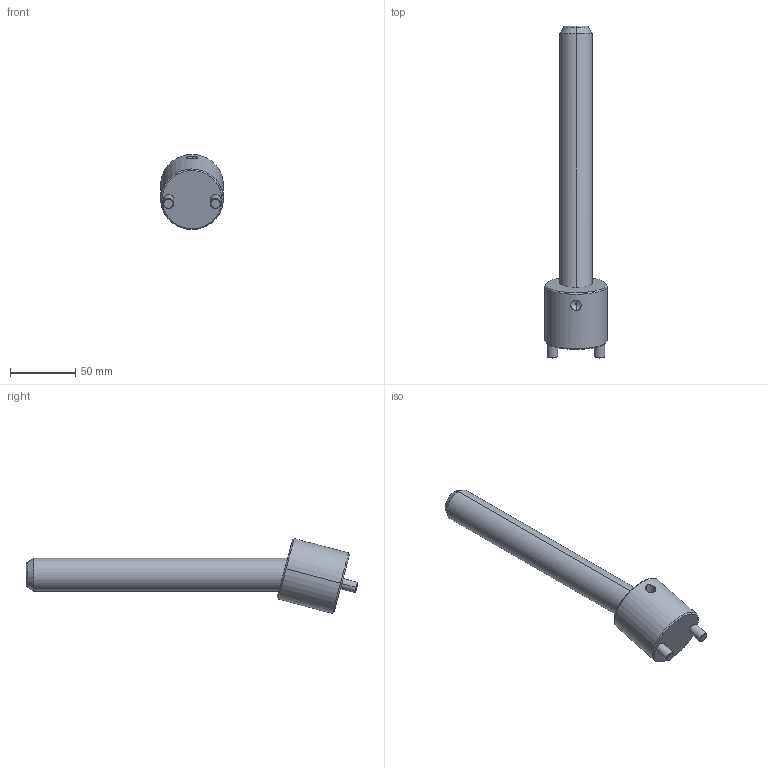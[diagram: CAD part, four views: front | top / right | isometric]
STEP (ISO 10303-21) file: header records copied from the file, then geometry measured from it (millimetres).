
FILE_DESCRIPTION(('CATIA V5 STEP Exchange'),'2;1');
FILE_NAME('C:\Users\Raffaele\Desktop\3D BOLEX\3D FILES CF BOLEX\19-INCLINED ASSEMBLY REF_CI\CI1525200.stp','2019-06-21T14:21:01+00:00',('none'),('none'),'CATIA Version 5 Release 20 GA (IN-10)','CATIA V5 STEP AP203','none');
FILE_SCHEMA(('CONFIG_CONTROL_DESIGN'));
Length unit declared in the file: millimetre
Products named in the file (1): CI1525200
Assembly tree (2 placements, depth 2):
  CI1525200
    #58
    #602
Bounding box: 48 x 254.26 x 57.49 mm (x, y, z)
Volume: 177295 mm3; surface area: 33275.2 mm2
Topology: 2 solids, 2 shells, 39 faces, 82 edges, 47 vertices
Faces by surface type: cone 14, cylinder 14, plane 7, torus 4
Entity records: 1524 total; most frequent: CARTESIAN_POINT 663, ORIENTED_EDGE 160, DIRECTION 146, EDGE_CURVE 80, AXIS2_PLACEMENT_3D 73, VERTEX_POINT 47, EDGE_LOOP 43, ADVANCED_FACE 39
